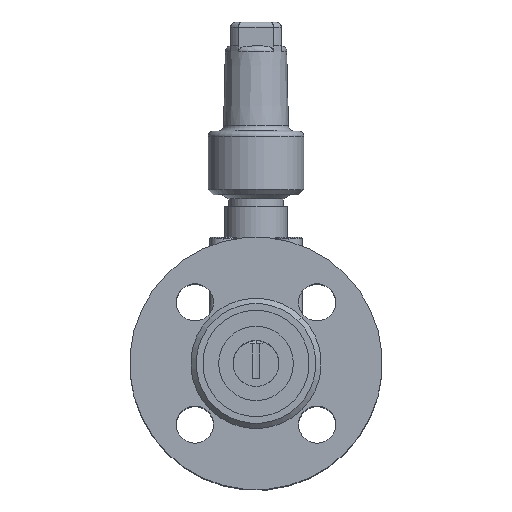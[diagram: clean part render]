
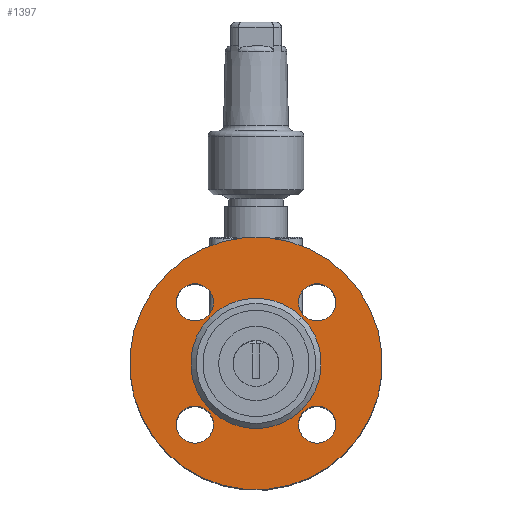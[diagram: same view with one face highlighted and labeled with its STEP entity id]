
A CAD part, top view. The second image highlights one B-rep face of the part: STEP entity #1397.
In plain terms, the highlighted planar face has unit normal (0, 0, 1) as drawn and (0, -1, 0) by its records, which use the part's own axes.
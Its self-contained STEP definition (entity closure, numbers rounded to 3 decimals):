
#16593 = VERTEX_POINT ( 'NONE', #10282 ) ;
#614 = ORIENTED_EDGE ( 'NONE', *, *, #18483, .T. ) ;
#17004 = EDGE_CURVE ( 'NONE', #16593, #16169, #10420, .T. ) ;
#17075 = EDGE_LOOP ( 'NONE', ( #16101, #14638 ) ) ;
#707 = CARTESIAN_POINT ( 'NONE',  ( -47.5, 2., 0. ) ) ;
#17520 = ORIENTED_EDGE ( 'NONE', *, *, #17004, .T. ) ;
#1148 = EDGE_LOOP ( 'NONE', ( #614, #17520 ) ) ;
#1397 = ADVANCED_FACE ( 'NONE', ( #19867, #19868, #19869, #19870, #19871, #19872 ), #19873, .F. ) ;
#1530 = CARTESIAN_POINT ( 'NONE',  ( 47.5, 2., 0. ) ) ;
#1550 = CIRCLE ( 'NONE', #1551, 7. ) ;
#1551 = AXIS2_PLACEMENT_3D ( 'NONE', #1552, #1553, #1554 ) ;
#1552 = CARTESIAN_POINT ( 'NONE',  ( 0., 2., 32.5 ) ) ;
#1553 = DIRECTION ( 'NONE',  ( 0., 1., 0. ) ) ;
#1554 = DIRECTION ( 'NONE',  ( -1., 0., 0. ) ) ;
#18483 = EDGE_CURVE ( 'NONE', #16169, #16593, #12354, .T. ) ;
#18635 = CIRCLE ( 'NONE', #18636, 47.5 ) ;
#18636 = AXIS2_PLACEMENT_3D ( 'NONE', #18637, #18638, #18639 ) ;
#18637 = CARTESIAN_POINT ( 'NONE',  ( 0., 2., 0. ) ) ;
#18638 = DIRECTION ( 'NONE',  ( 0., 1., 0. ) ) ;
#18639 = DIRECTION ( 'NONE',  ( -1., 0., 0. ) ) ;
#19122 = CIRCLE ( 'NONE', #19123, 24.5 ) ;
#19123 = AXIS2_PLACEMENT_3D ( 'NONE', #19124, #19125, #19126 ) ;
#19124 = CARTESIAN_POINT ( 'NONE',  ( 0., 2., 0. ) ) ;
#19125 = DIRECTION ( 'NONE',  ( 0., 1., 0. ) ) ;
#19126 = DIRECTION ( 'NONE',  ( -1., 0., 0. ) ) ;
#2778 = VERTEX_POINT ( 'NONE', #707 ) ;
#19375 = VERTEX_POINT ( 'NONE', #12603 ) ;
#3282 = VERTEX_POINT ( 'NONE', #1530 ) ;
#3356 = EDGE_CURVE ( 'NONE', #7161, #6936, #1550, .T. ) ;
#19792 = VERTEX_POINT ( 'NONE', #12812 ) ;
#19867 = FACE_BOUND ( 'NONE', #1148, .T. ) ;
#19868 = FACE_BOUND ( 'NONE', #17075, .T. ) ;
#19869 = FACE_BOUND ( 'NONE', #14387, .T. ) ;
#19870 = FACE_BOUND ( 'NONE', #12728, .T. ) ;
#19871 = FACE_OUTER_BOUND ( 'NONE', #5856, .T. ) ;
#19872 = FACE_BOUND ( 'NONE', #4566, .T. ) ;
#19873 = PLANE ( 'NONE',  #19874 ) ;
#19874 = AXIS2_PLACEMENT_3D ( 'NONE', #19875, #19876, #19877 ) ;
#19875 = CARTESIAN_POINT ( 'NONE',  ( 24.5, 2., 0. ) ) ;
#19876 = DIRECTION ( 'NONE',  ( 0., 1., 0. ) ) ;
#19877 = DIRECTION ( 'NONE',  ( -1., 0., 0. ) ) ;
#3513 = ORIENTED_EDGE ( 'NONE', *, *, #9374, .T. ) ;
#20202 = CARTESIAN_POINT ( 'NONE',  ( 24.5, 2., 0. ) ) ;
#20212 = EDGE_CURVE ( 'NONE', #19792, #19375, #12985, .T. ) ;
#4037 = ORIENTED_EDGE ( 'NONE', *, *, #8691, .T. ) ;
#4190 = CIRCLE ( 'NONE', #4191, 7. ) ;
#4191 = AXIS2_PLACEMENT_3D ( 'NONE', #4192, #4193, #4194 ) ;
#4192 = CARTESIAN_POINT ( 'NONE',  ( 0., 2., 32.5 ) ) ;
#4193 = DIRECTION ( 'NONE',  ( 0., 1., 0. ) ) ;
#4194 = DIRECTION ( 'NONE',  ( -1., 0., 0. ) ) ;
#4566 = EDGE_LOOP ( 'NONE', ( #4037, #3513 ) ) ;
#4814 = ORIENTED_EDGE ( 'NONE', *, *, #7951, .F. ) ;
#5339 = ORIENTED_EDGE ( 'NONE', *, *, #10660, .F. ) ;
#5856 = EDGE_LOOP ( 'NONE', ( #5339, #4814 ) ) ;
#6100 = ORIENTED_EDGE ( 'NONE', *, *, #20212, .T. ) ;
#6616 = EDGE_CURVE ( 'NONE', #19375, #19792, #10841, .T. ) ;
#6936 = VERTEX_POINT ( 'NONE', #12085 ) ;
#6955 = ORIENTED_EDGE ( 'NONE', *, *, #6616, .T. ) ;
#7161 = VERTEX_POINT ( 'NONE', #12222 ) ;
#7602 = VERTEX_POINT ( 'NONE', #12513 ) ;
#7818 = VERTEX_POINT ( 'NONE', #12679 ) ;
#7951 = EDGE_CURVE ( 'NONE', #3282, #2778, #12790, .T. ) ;
#8041 = EDGE_CURVE ( 'NONE', #7818, #7602, #12837, .T. ) ;
#8466 = VERTEX_POINT ( 'NONE', #13405 ) ;
#8691 = EDGE_CURVE ( 'NONE', #8466, #9755, #15433, .T. ) ;
#9160 = CIRCLE ( 'NONE', #9161, 7. ) ;
#9161 = AXIS2_PLACEMENT_3D ( 'NONE', #9162, #9163, #9164 ) ;
#9162 = CARTESIAN_POINT ( 'NONE',  ( -32.5, 2., 0. ) ) ;
#9163 = DIRECTION ( 'NONE',  ( 0., 1., 0. ) ) ;
#9164 = DIRECTION ( 'NONE',  ( -1., 0., 0. ) ) ;
#9374 = EDGE_CURVE ( 'NONE', #9755, #8466, #19122, .T. ) ;
#9713 = CARTESIAN_POINT ( 'NONE',  ( -7., 2., -32.5 ) ) ;
#9755 = VERTEX_POINT ( 'NONE', #20202 ) ;
#10282 = CARTESIAN_POINT ( 'NONE',  ( 7., 2., -32.5 ) ) ;
#10420 = CIRCLE ( 'NONE', #10421, 7. ) ;
#10421 = AXIS2_PLACEMENT_3D ( 'NONE', #10422, #10423, #10424 ) ;
#10422 = CARTESIAN_POINT ( 'NONE',  ( 0., 2., -32.5 ) ) ;
#10423 = DIRECTION ( 'NONE',  ( 0., 1., 0. ) ) ;
#10424 = DIRECTION ( 'NONE',  ( -1., 0., 0. ) ) ;
#10660 = EDGE_CURVE ( 'NONE', #2778, #3282, #18635, .T. ) ;
#10841 = CIRCLE ( 'NONE', #10842, 7. ) ;
#10842 = AXIS2_PLACEMENT_3D ( 'NONE', #10843, #10844, #10852 ) ;
#10843 = CARTESIAN_POINT ( 'NONE',  ( 32.5, 2., 0. ) ) ;
#10844 = DIRECTION ( 'NONE',  ( 0., 1., 0. ) ) ;
#10852 = DIRECTION ( 'NONE',  ( -1., 0., 0. ) ) ;
#12085 = CARTESIAN_POINT ( 'NONE',  ( -7., 2., 32.5 ) ) ;
#12222 = CARTESIAN_POINT ( 'NONE',  ( 7., 2., 32.5 ) ) ;
#12354 = CIRCLE ( 'NONE', #12355, 7. ) ;
#12355 = AXIS2_PLACEMENT_3D ( 'NONE', #12356, #12357, #12358 ) ;
#12356 = CARTESIAN_POINT ( 'NONE',  ( 0., 2., -32.5 ) ) ;
#12357 = DIRECTION ( 'NONE',  ( 0., 1., 0. ) ) ;
#12358 = DIRECTION ( 'NONE',  ( -1., 0., 0. ) ) ;
#12513 = CARTESIAN_POINT ( 'NONE',  ( -39.5, 2., 0. ) ) ;
#12603 = CARTESIAN_POINT ( 'NONE',  ( 25.5, 2., 0. ) ) ;
#12679 = CARTESIAN_POINT ( 'NONE',  ( -25.5, 2., 0. ) ) ;
#12728 = EDGE_LOOP ( 'NONE', ( #6955, #6100 ) ) ;
#12790 = CIRCLE ( 'NONE', #12791, 47.5 ) ;
#12791 = AXIS2_PLACEMENT_3D ( 'NONE', #12792, #12793, #12794 ) ;
#12792 = CARTESIAN_POINT ( 'NONE',  ( 0., 2., 0. ) ) ;
#12793 = DIRECTION ( 'NONE',  ( 0., 1., 0. ) ) ;
#12794 = DIRECTION ( 'NONE',  ( -1., 0., 0. ) ) ;
#12812 = CARTESIAN_POINT ( 'NONE',  ( 39.5, 2., 0. ) ) ;
#12837 = CIRCLE ( 'NONE', #12838, 7. ) ;
#12838 = AXIS2_PLACEMENT_3D ( 'NONE', #12839, #12840, #12841 ) ;
#12839 = CARTESIAN_POINT ( 'NONE',  ( -32.5, 2., 0. ) ) ;
#12840 = DIRECTION ( 'NONE',  ( 0., 1., 0. ) ) ;
#12841 = DIRECTION ( 'NONE',  ( -1., 0., 0. ) ) ;
#12969 = ORIENTED_EDGE ( 'NONE', *, *, #3356, .T. ) ;
#12985 = CIRCLE ( 'NONE', #12986, 7. ) ;
#12986 = AXIS2_PLACEMENT_3D ( 'NONE', #12987, #12992, #12993 ) ;
#12987 = CARTESIAN_POINT ( 'NONE',  ( 32.5, 2., 0. ) ) ;
#12992 = DIRECTION ( 'NONE',  ( 0., 1., 0. ) ) ;
#12993 = DIRECTION ( 'NONE',  ( -1., 0., 0. ) ) ;
#13405 = CARTESIAN_POINT ( 'NONE',  ( -24.5, 2., 0. ) ) ;
#13494 = EDGE_CURVE ( 'NONE', #6936, #7161, #4190, .T. ) ;
#13873 = ORIENTED_EDGE ( 'NONE', *, *, #13494, .T. ) ;
#14387 = EDGE_LOOP ( 'NONE', ( #13873, #12969 ) ) ;
#14638 = ORIENTED_EDGE ( 'NONE', *, *, #8041, .T. ) ;
#15403 = EDGE_CURVE ( 'NONE', #7602, #7818, #9160, .T. ) ;
#15433 = CIRCLE ( 'NONE', #15434, 24.5 ) ;
#15434 = AXIS2_PLACEMENT_3D ( 'NONE', #15435, #15436, #15454 ) ;
#15435 = CARTESIAN_POINT ( 'NONE',  ( 0., 2., 0. ) ) ;
#15436 = DIRECTION ( 'NONE',  ( 0., 1., 0. ) ) ;
#15454 = DIRECTION ( 'NONE',  ( -1., 0., 0. ) ) ;
#16101 = ORIENTED_EDGE ( 'NONE', *, *, #15403, .T. ) ;
#16169 = VERTEX_POINT ( 'NONE', #9713 ) ;
